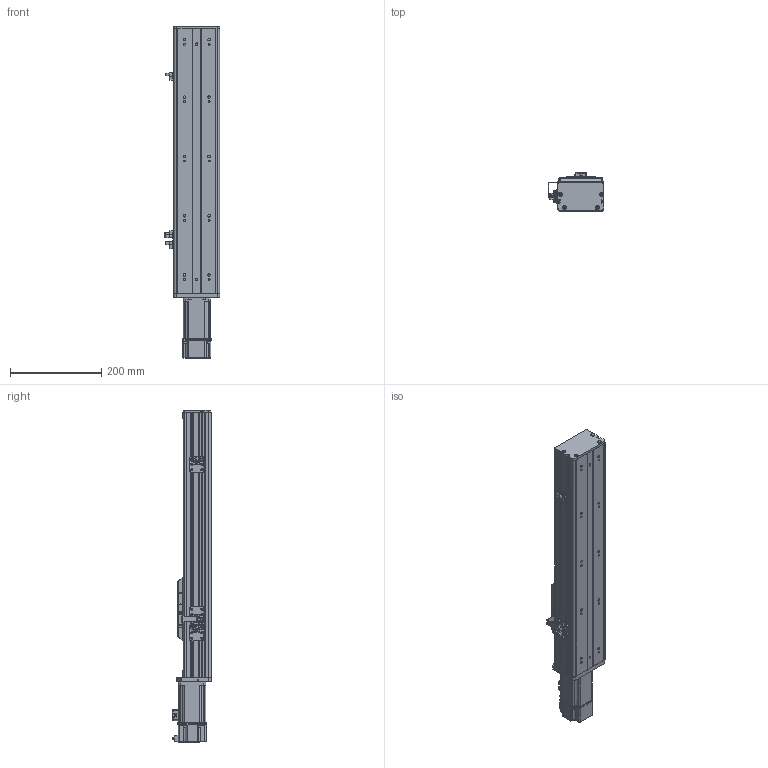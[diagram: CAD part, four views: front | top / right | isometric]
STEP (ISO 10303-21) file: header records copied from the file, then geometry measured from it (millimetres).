
FILE_DESCRIPTION (( 'STEP AP203' ), '1' );
FILE_NAME ('BOSW100-350-1610-1P-CM-M400W-O-S3（方程式2016）.step', '2020-10-10T06:31:44', ( '' ), ( '' ), 'SwSTEP 2.0', 'SolidWorks 2016', '' );
FILE_SCHEMA (( 'CONFIG_CONTROL_DESIGN' ));
Length unit declared in the file: millimetre
Products named in the file (13): 放大器内置U型微型光电传感器PM-L65; BOSW-100-1P-CM-350諦誧芞; BOSW&TW-100-1P-賑雄釱欶; BOSW-100-1P-CM-宽轨-钢带-350客户图纸; 新结构AIMSW-100-1P-宽&高轨共用-滑动座上组件; BOSW-100-綴裔啣; 俋境嫖覜嘐隅啣; BOSW100-350-1610-1P-CM-M400W-O-S3（方程式2016）; BOSW-100-CM-宽轨-三菱M200W&400W马达板(新结构); BOSW&TW-100-詩湍揤沭(陔賦凳); BOSW&TW-100-俋离覜茼え; BOSW-100-1P-CM-宽轨-侧板-350客户图纸; S400W(SMA-L040)
Assembly tree (18 placements, depth 2):
  BOSW100-350-1610-1P-CM-M400W-O-S3（方程式2016）
    BOSW-100-1P-CM-350諦誧芞
    BOSW-100-綴裔啣
    新结构AIMSW-100-1P-宽&高轨共用-滑动座上组件
    S400W(SMA-L040)
    BOSW&TW-100-詩湍揤沭(陔賦凳)  x2
    BOSW&TW-100-1P-賑雄釱欶
    BOSW&TW-100-俋离覜茼え
    俋境嫖覜嘐隅啣  x3
    放大器内置U型微型光电传感器PM-L65  x3
    BOSW-100-CM-宽轨-三菱M200W&400W马达板(新结构)
    BOSW-100-1P-CM-宽轨-侧板-350客户图纸  x2
    BOSW-100-1P-CM-宽轨-钢带-350客户图纸
Bounding box: 120.9 x 85.5 x 727.8 mm (x, y, z)
Volume: 1458179 mm3; surface area: 664472.4 mm2
Topology: 18 solids, 18 shells, 2481 faces, 6534 edges, 4165 vertices
Faces by surface type: plane 1220, cylinder 777, bspline 271, cone 165, torus 36, sphere 12
Entity records: 67584 total; most frequent: CARTESIAN_POINT 20420, ORIENTED_EDGE 9608, DIRECTION 9314, EDGE_CURVE 4804, AXIS2_PLACEMENT_3D 3308, VERTEX_POINT 3067, VECTOR 2698, LINE 2698
